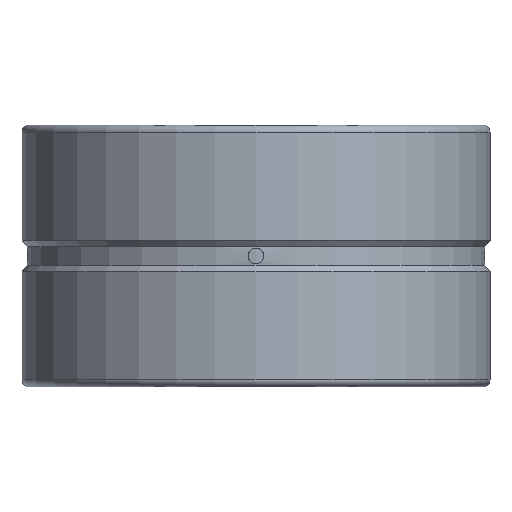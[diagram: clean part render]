
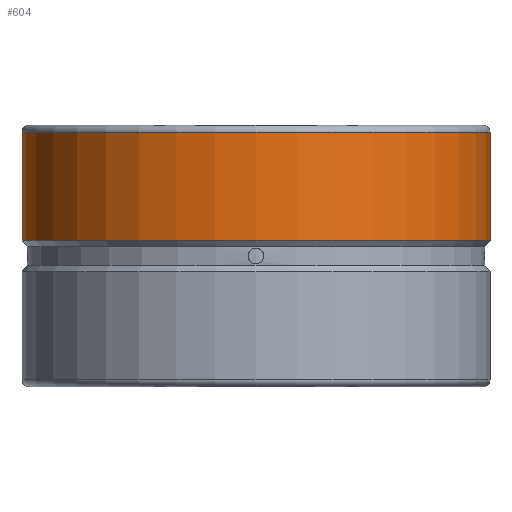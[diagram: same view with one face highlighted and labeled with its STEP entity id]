
A CAD part, front view. The second image highlights one B-rep face of the part: STEP entity #604.
In plain terms, the highlighted cylindrical face has radius 34 mm (diameter 68 mm), a full revolution.
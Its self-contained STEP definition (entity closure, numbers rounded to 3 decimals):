
#141=CIRCLE('',#658,34.);
#142=CIRCLE('',#660,34.);
#194=FACE_BOUND('',#295,.T.);
#243=FACE_OUTER_BOUND('',#294,.T.);
#294=EDGE_LOOP('',(#492));
#295=EDGE_LOOP('',(#493));
#395=VERTEX_POINT('',#1220);
#396=VERTEX_POINT('',#1223);
#443=EDGE_CURVE('',#395,#395,#141,.T.);
#444=EDGE_CURVE('',#396,#396,#142,.T.);
#492=ORIENTED_EDGE('',*,*,#444,.T.);
#493=ORIENTED_EDGE('',*,*,#443,.F.);
#583=CYLINDRICAL_SURFACE('',#659,34.);
#604=ADVANCED_FACE('',(#243,#194),#583,.T.);
#658=AXIS2_PLACEMENT_3D('',#1221,#781,#782);
#659=AXIS2_PLACEMENT_3D('',#1222,#783,#784);
#660=AXIS2_PLACEMENT_3D('',#1224,#785,#786);
#781=DIRECTION('center_axis',(0.,0.,1.));
#782=DIRECTION('ref_axis',(0.,-1.,0.));
#783=DIRECTION('center_axis',(0.,0.,-1.));
#784=DIRECTION('ref_axis',(0.,1.,0.));
#785=DIRECTION('center_axis',(0.,0.,1.));
#786=DIRECTION('ref_axis',(0.,1.,0.));
#1220=CARTESIAN_POINT('',(0.,34.,27.517));
#1221=CARTESIAN_POINT('Origin',(0.,0.,27.517));
#1222=CARTESIAN_POINT('Origin',(0.,0.,9.517));
#1223=CARTESIAN_POINT('',(0.,34.,11.797));
#1224=CARTESIAN_POINT('Origin',(0.,0.,11.797));
